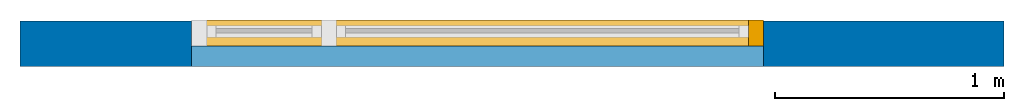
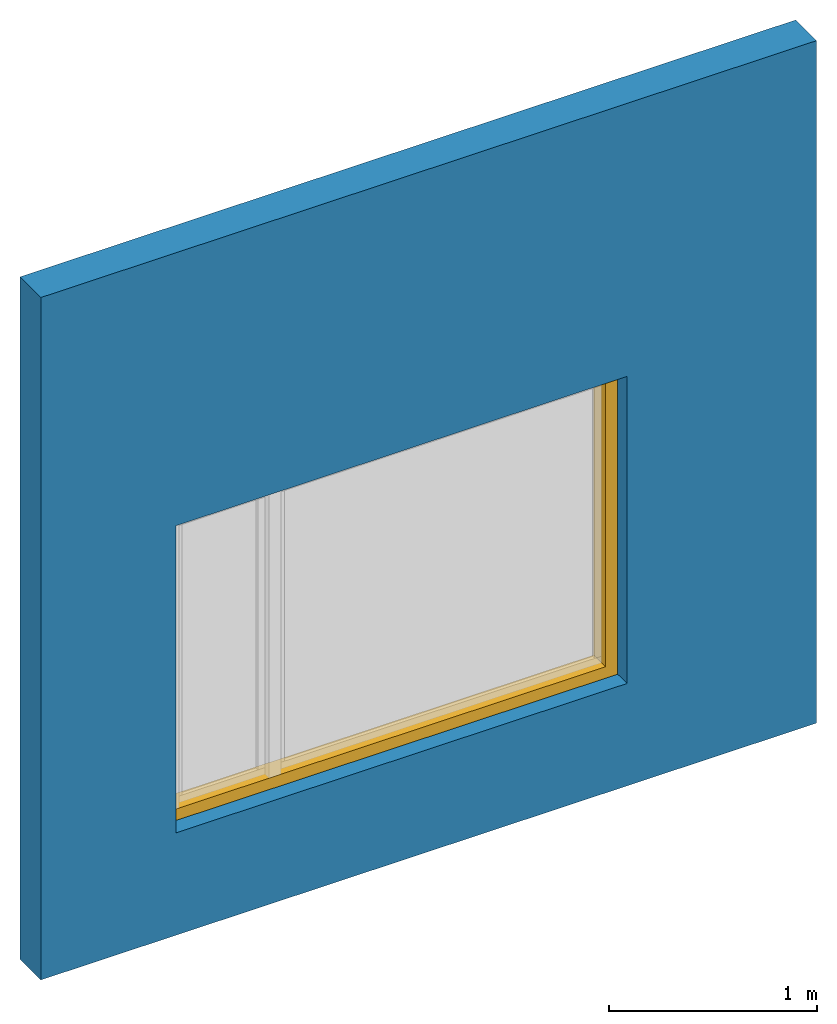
# One storey, part 1 of 3: 1 wall, 1 window, 1 opening.
"""IFC2X3 building model written with IfcOpenShell, lengths in millimetres."""

from ifc_helpers import new_model, entity, si_unit, converted_unit, derived_unit, direction, frame, frame_2d, origin, origin_2d_with_axis, place, context, subcontext, project, spatial, rectangle, extrude, source, transform, mapped, material, layer, layer_set, layer_usage, type_object, type_shapes, element, fill, save


model = new_model("IFC2X3")

# Units and contexts
model_context = context("Model", 3, precision=0.01, world=origin(), true_north=direction((6.12303176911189e-17, 1.0)))
body_context = subcontext(model_context, "Body", "Model", "MODEL_VIEW")
ifc_project = project(units=[si_unit("LENGTHUNIT", "METRE", prefix="MILLI"), si_unit("AREAUNIT", "SQUARE_METRE"), si_unit("VOLUMEUNIT", "CUBIC_METRE"), converted_unit("PLANEANGLEUNIT", "DEGREE", entity("IfcRatioMeasure", 0.0174532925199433), si_unit("PLANEANGLEUNIT", "RADIAN"), dimensions=[0, 0, 0, 0, 0, 0, 0]), si_unit("MASSUNIT", "GRAM", prefix="KILO"), si_unit("TIMEUNIT", "SECOND"), si_unit("FREQUENCYUNIT", "HERTZ"), si_unit("THERMODYNAMICTEMPERATUREUNIT", "KELVIN"), derived_unit("THERMALTRANSMITTANCEUNIT", [(si_unit("MASSUNIT", "GRAM", prefix="KILO"), 1), (si_unit("THERMODYNAMICTEMPERATUREUNIT", "KELVIN"), -1), (si_unit("TIMEUNIT", "SECOND"), -3)]), derived_unit("VOLUMETRICFLOWRATEUNIT", [(si_unit("LENGTHUNIT", "METRE"), 3), (si_unit("TIMEUNIT", "SECOND"), -1)]), si_unit("ELECTRICCURRENTUNIT", "AMPERE"), si_unit("ELECTRICVOLTAGEUNIT", "VOLT"), si_unit("POWERUNIT", "WATT")], contexts=[model_context])

# Site, building, storey
site_placement = place(None, origin())
site = spatial("IfcSite", under=ifc_project, at=site_placement, Name="Default", CompositionType="ELEMENT")
building_placement = place(site_placement, origin())
building = spatial("IfcBuilding", under=site, at=building_placement, CompositionType="ELEMENT")
storey_placement = place(building_placement, origin())
storey = spatial("IfcBuildingStorey", under=building, at=storey_placement, Name="Level 1", CompositionType="ELEMENT", Elevation=0.0)

# Wall, opening, window
ifc_material = material(Name="Default Wall")
ifc_layer = layer(ifc_material, 200.0)
ifc_layer_set = layer_set([ifc_layer], Name="Basic Wall:Wall 1")
ifc_layer_usage = layer_usage(ifc_layer_set, "AXIS2", "NEGATIVE", 100.0)
wall_type = type_object("IfcWallType", Name="Basic Wall:Wall 1", PredefinedType="STANDARD", material=ifc_layer_set)
wall_placement = place(storey_placement, frame((965.62123039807, 1561.21833534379, 0.0)))
wall = element("IfcWallStandardCase", 1, at=wall_placement, inside=storey, type_object=wall_type, material=ifc_layer_usage, Name="Basic Wall:Wall 1:2292", ObjectType="Basic Wall:Wall 1:1492", context=body_context, shape_type="SweptSolid", body=[
    extrude(rectangle(XDim=4300.0, YDim=200.0, at=frame_2d((2150.0, -7.105427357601e-15), x_axis=(-1.0, 0.0))), origin(), (0.0, 0.0, 1.0), 4000.0),
])
opening_placement = place(wall_placement, frame((750.0, -100.0, 600.0)))
opening = element("IfcOpeningElement", 2, at=opening_placement, cuts=wall, Name="Basic Wall:Wall 1:2292", ObjectType="Opening", context=body_context, shape_type="SweptSolid", body=[
    extrude(rectangle(XDim=1800.0, YDim=2500.0, at=frame_2d((-1.13686837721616e-13, 0.0), x_axis=(0.0, 1.0))), frame((1250.0, 0.0, 900.0), z_axis=(0.0, 1.0, 0.0), x_axis=(-1.0, 0.0, 0.0)), (0.0, 0.0, 1.0), 200.000000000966),
])
window_style = type_object("IfcWindowStyle", Name="31_WI_A1B1", ConstructionType="NOTDEFINED", OperationType="NOTDEFINED", ParameterTakesPrecedence=False, Sizeable=False)
shared_shape = source(origin(), body_context, "Body", "SweptSolid", [
    extrude(rectangle(XDim=113.999999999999, YDim=66.9999999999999, at=origin_2d_with_axis()), frame((33.5, 53.0, 67.0), z_axis=(0.0, 0.0, 1.0), x_axis=(0.0, 1.0, 0.0)), (0.0, 0.0, 1.0), 1666.0),
    extrude(rectangle(XDim=2500.0, YDim=113.999999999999, at=origin_2d_with_axis()), frame((1250.0, 53.0, 0.0), z_axis=(0.0, 0.0, 1.0), x_axis=(-1.0, 0.0, 0.0)), (0.0, 0.0, 1.0), 66.9999999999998),
])
type_shapes(window_style, [shared_shape])
window_placement = place(storey_placement, frame((4215.62123039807, 1661.21833534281, 600.0), z_axis=(0.0, 0.0, 1.0), x_axis=(-1.0, 0.0, 0.0)))
window = element("IfcWindow", 3, at=window_placement, inside=storey, type_object=window_style, Name="31_WI_A1B1:31_WI_A1B1", ObjectType="31_WI_A1B1", OverallHeight=1800.0, OverallWidth=2500.0, context=body_context, shape_type="MappedRepresentation", body=[
    mapped(shared_shape, transform((0.0, 0.0, 0.0), scale=1.0)),
])
fill(opening, window)

save(model, "model.ifc")
